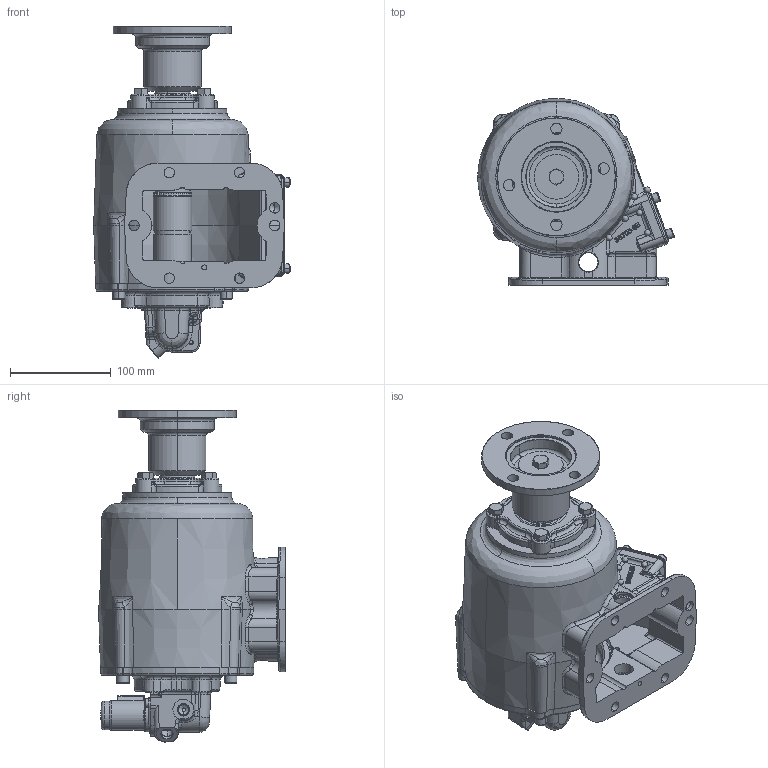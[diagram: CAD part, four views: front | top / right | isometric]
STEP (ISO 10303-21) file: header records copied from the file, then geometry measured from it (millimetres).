
FILE_DESCRIPTION (( 'STEP AP203' ), '1' );
FILE_NAME ('CS6S-XXXXX-S3CX.STEP', '2023-05-30T13:05:38', ( '' ), ( '' ), 'SwSTEP 2.0', 'SolidWorks 2021', '' );
FILE_SCHEMA (( 'CONFIG_CONTROL_DESIGN' ));
Length unit declared in the file: inch
Products named in the file (16): 19T35237; 15TA5220_Config1; 16T41119; 19T40859; 14T37357; 15T41683; 15T41597; 21T20092; 19T41118; 19T38266; CS6S-XXXXX-S3CX; 19T41756; 35T40860-2; 01T37072; 06T37372_06T37372; 11T37790
Assembly tree (25 placements, depth 3):
  CS6S-XXXXX-S3CX
    01T37072
    16T41119
    19T35237  x4
    19T41118  x4
    15T41597
    35T40860-2
    19T40859  x2
    15TA5220_Config1
      15T41683
      11T37790
    19T41756  x4
    06T37372_06T37372
    14T37357
    19T38266
    21T20092
Bounding box: 195.33 x 185.25 x 329.74 mm (x, y, z)
Volume: 1596605.5 mm3; surface area: 457651.9 mm2
Topology: 25 solids, 25 shells, 3037 faces, 7754 edges, 4782 vertices
Faces by surface type: bspline 888, plane 807, cylinder 731, cone 395, torus 212, sphere 4
Entity records: 224169 total; most frequent: CARTESIAN_POINT 162160, ORIENTED_EDGE 14146, DIRECTION 9941, EDGE_CURVE 7073, VERTEX_POINT 4444, AXIS2_PLACEMENT_3D 3864, EDGE_LOOP 3019, B_SPLINE_CURVE_WITH_KNOTS 2836
